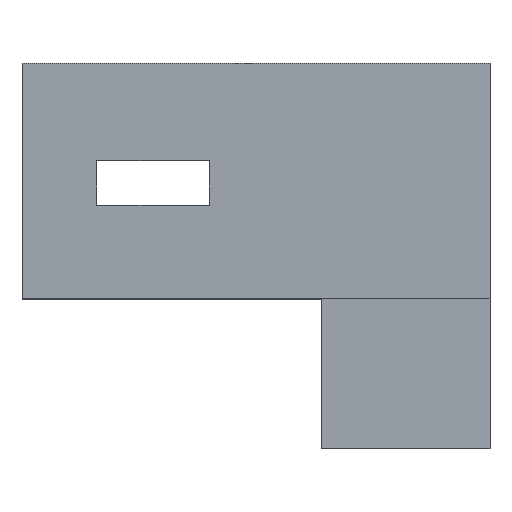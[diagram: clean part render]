
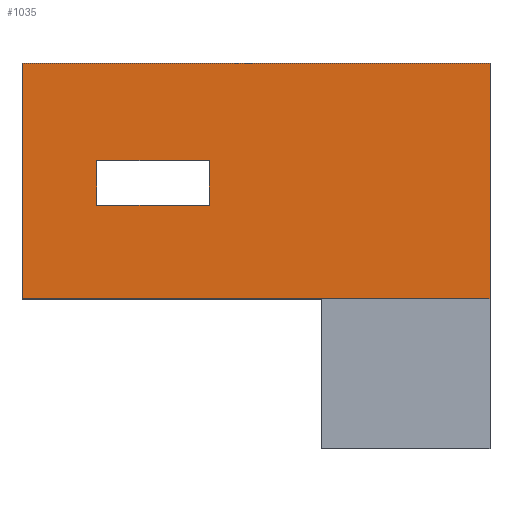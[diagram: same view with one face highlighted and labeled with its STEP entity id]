
A CAD part, top view. The second image highlights one B-rep face of the part: STEP entity #1035.
In plain terms, the highlighted planar face has unit normal (0, 0, 1).
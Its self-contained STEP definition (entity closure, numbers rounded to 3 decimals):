
#85 = VERTEX_POINT('',#86);
#86 = CARTESIAN_POINT('',(25.,18.5,-7.9));
#100 = PLANE('',#101);
#101 = AXIS2_PLACEMENT_3D('',#102,#103,#104);
#102 = CARTESIAN_POINT('',(17.,18.5,-10.05));
#103 = DIRECTION('',(-0.,1.,0.));
#104 = DIRECTION('',(0.,0.,1.));
#128 = PLANE('',#129);
#129 = AXIS2_PLACEMENT_3D('',#130,#131,#132);
#130 = CARTESIAN_POINT('',(25.,18.5,-10.05));
#131 = DIRECTION('',(-0.,1.,0.));
#132 = DIRECTION('',(0.,0.,1.));
#323 = VERTEX_POINT('',#324);
#324 = CARTESIAN_POINT('',(17.,18.5,-7.9));
#338 = PLANE('',#339);
#339 = AXIS2_PLACEMENT_3D('',#340,#341,#342);
#340 = CARTESIAN_POINT('',(17.,18.5,-10.05));
#341 = DIRECTION('',(1.,0.,-0.));
#342 = DIRECTION('',(0.,0.,1.));
#350 = EDGE_CURVE('',#323,#85,#351,.T.);
#351 = SURFACE_CURVE('',#352,(#356,#363),.PCURVE_S1.);
#352 = LINE('',#353,#354);
#353 = CARTESIAN_POINT('',(17.,18.5,-7.9));
#354 = VECTOR('',#355,1.);
#355 = DIRECTION('',(1.,0.,-0.));
#356 = PCURVE('',#100,#357);
#357 = DEFINITIONAL_REPRESENTATION('',(#358),#362);
#358 = LINE('',#359,#360);
#359 = CARTESIAN_POINT('',(2.15,0.));
#360 = VECTOR('',#361,1.);
#361 = DIRECTION('',(0.,1.));
#362 = ( GEOMETRIC_REPRESENTATION_CONTEXT(2) 
PARAMETRIC_REPRESENTATION_CONTEXT() REPRESENTATION_CONTEXT('2D SPACE',''
  ) );
#363 = PCURVE('',#364,#369);
#364 = PLANE('',#365);
#365 = AXIS2_PLACEMENT_3D('',#366,#367,#368);
#366 = CARTESIAN_POINT('',(17.,18.5,-7.9));
#367 = DIRECTION('',(0.,0.,1.));
#368 = DIRECTION('',(1.,0.,-0.));
#369 = DEFINITIONAL_REPRESENTATION('',(#370),#374);
#370 = LINE('',#371,#372);
#371 = CARTESIAN_POINT('',(0.,0.));
#372 = VECTOR('',#373,1.);
#373 = DIRECTION('',(1.,0.));
#374 = ( GEOMETRIC_REPRESENTATION_CONTEXT(2) 
PARAMETRIC_REPRESENTATION_CONTEXT() REPRESENTATION_CONTEXT('2D SPACE',''
  ) );
#380 = EDGE_CURVE('',#85,#381,#383,.T.);
#381 = VERTEX_POINT('',#382);
#382 = CARTESIAN_POINT('',(29.5,18.5,-7.9));
#383 = SURFACE_CURVE('',#384,(#388,#395),.PCURVE_S1.);
#384 = LINE('',#385,#386);
#385 = CARTESIAN_POINT('',(17.,18.5,-7.9));
#386 = VECTOR('',#387,1.);
#387 = DIRECTION('',(1.,0.,-0.));
#388 = PCURVE('',#128,#389);
#389 = DEFINITIONAL_REPRESENTATION('',(#390),#394);
#390 = LINE('',#391,#392);
#391 = CARTESIAN_POINT('',(2.15,-8.));
#392 = VECTOR('',#393,1.);
#393 = DIRECTION('',(0.,1.));
#394 = ( GEOMETRIC_REPRESENTATION_CONTEXT(2) 
PARAMETRIC_REPRESENTATION_CONTEXT() REPRESENTATION_CONTEXT('2D SPACE',''
  ) );
#395 = PCURVE('',#364,#396);
#396 = DEFINITIONAL_REPRESENTATION('',(#397),#401);
#397 = LINE('',#398,#399);
#398 = CARTESIAN_POINT('',(0.,0.));
#399 = VECTOR('',#400,1.);
#400 = DIRECTION('',(1.,0.));
#401 = ( GEOMETRIC_REPRESENTATION_CONTEXT(2) 
PARAMETRIC_REPRESENTATION_CONTEXT() REPRESENTATION_CONTEXT('2D SPACE',''
  ) );
#494 = PLANE('',#495);
#495 = AXIS2_PLACEMENT_3D('',#496,#497,#498);
#496 = CARTESIAN_POINT('',(29.5,18.5,-10.05));
#497 = DIRECTION('',(1.,0.,-0.));
#498 = DIRECTION('',(0.,0.,1.));
#711 = PLANE('',#712);
#712 = AXIS2_PLACEMENT_3D('',#713,#714,#715);
#713 = CARTESIAN_POINT('',(17.,24.8,-10.05));
#714 = DIRECTION('',(-0.,1.,0.));
#715 = DIRECTION('',(0.,0.,1.));
#846 = PLANE('',#847);
#847 = AXIS2_PLACEMENT_3D('',#848,#849,#850);
#848 = CARTESIAN_POINT('',(19.,21.,-10.2));
#849 = DIRECTION('',(-0.,1.,0.));
#850 = DIRECTION('',(0.,0.,1.));
#874 = PLANE('',#875);
#875 = AXIS2_PLACEMENT_3D('',#876,#877,#878);
#876 = CARTESIAN_POINT('',(19.,21.,-10.2));
#877 = DIRECTION('',(1.,0.,-0.));
#878 = DIRECTION('',(0.,0.,1.));
#902 = PLANE('',#903);
#903 = AXIS2_PLACEMENT_3D('',#904,#905,#906);
#904 = CARTESIAN_POINT('',(19.,22.2,-10.2));
#905 = DIRECTION('',(-0.,1.,0.));
#906 = DIRECTION('',(0.,0.,1.));
#928 = PLANE('',#929);
#929 = AXIS2_PLACEMENT_3D('',#930,#931,#932);
#930 = CARTESIAN_POINT('',(22.,21.,-10.2));
#931 = DIRECTION('',(1.,0.,-0.));
#932 = DIRECTION('',(0.,0.,1.));
#943 = EDGE_CURVE('',#323,#944,#946,.T.);
#944 = VERTEX_POINT('',#945);
#945 = CARTESIAN_POINT('',(17.,24.8,-7.9));
#946 = SURFACE_CURVE('',#947,(#951,#958),.PCURVE_S1.);
#947 = LINE('',#948,#949);
#948 = CARTESIAN_POINT('',(17.,18.5,-7.9));
#949 = VECTOR('',#950,1.);
#950 = DIRECTION('',(-0.,1.,0.));
#951 = PCURVE('',#338,#952);
#952 = DEFINITIONAL_REPRESENTATION('',(#953),#957);
#953 = LINE('',#954,#955);
#954 = CARTESIAN_POINT('',(2.15,0.));
#955 = VECTOR('',#956,1.);
#956 = DIRECTION('',(0.,-1.));
#957 = ( GEOMETRIC_REPRESENTATION_CONTEXT(2) 
PARAMETRIC_REPRESENTATION_CONTEXT() REPRESENTATION_CONTEXT('2D SPACE',''
  ) );
#958 = PCURVE('',#364,#959);
#959 = DEFINITIONAL_REPRESENTATION('',(#960),#964);
#960 = LINE('',#961,#962);
#961 = CARTESIAN_POINT('',(0.,0.));
#962 = VECTOR('',#963,1.);
#963 = DIRECTION('',(0.,1.));
#964 = ( GEOMETRIC_REPRESENTATION_CONTEXT(2) 
PARAMETRIC_REPRESENTATION_CONTEXT() REPRESENTATION_CONTEXT('2D SPACE',''
  ) );
#1035 = ADVANCED_FACE('',(#1036,#1085),#364,.T.);
#1036 = FACE_BOUND('',#1037,.T.);
#1037 = EDGE_LOOP('',(#1038,#1039,#1040,#1041,#1064));
#1038 = ORIENTED_EDGE('',*,*,#943,.F.);
#1039 = ORIENTED_EDGE('',*,*,#350,.T.);
#1040 = ORIENTED_EDGE('',*,*,#380,.T.);
#1041 = ORIENTED_EDGE('',*,*,#1042,.T.);
#1042 = EDGE_CURVE('',#381,#1043,#1045,.T.);
#1043 = VERTEX_POINT('',#1044);
#1044 = CARTESIAN_POINT('',(29.5,24.8,-7.9));
#1045 = SURFACE_CURVE('',#1046,(#1050,#1057),.PCURVE_S1.);
#1046 = LINE('',#1047,#1048);
#1047 = CARTESIAN_POINT('',(29.5,18.5,-7.9));
#1048 = VECTOR('',#1049,1.);
#1049 = DIRECTION('',(-0.,1.,0.));
#1050 = PCURVE('',#364,#1051);
#1051 = DEFINITIONAL_REPRESENTATION('',(#1052),#1056);
#1052 = LINE('',#1053,#1054);
#1053 = CARTESIAN_POINT('',(12.5,0.));
#1054 = VECTOR('',#1055,1.);
#1055 = DIRECTION('',(0.,1.));
#1056 = ( GEOMETRIC_REPRESENTATION_CONTEXT(2) 
PARAMETRIC_REPRESENTATION_CONTEXT() REPRESENTATION_CONTEXT('2D SPACE',''
  ) );
#1057 = PCURVE('',#494,#1058);
#1058 = DEFINITIONAL_REPRESENTATION('',(#1059),#1063);
#1059 = LINE('',#1060,#1061);
#1060 = CARTESIAN_POINT('',(2.15,0.));
#1061 = VECTOR('',#1062,1.);
#1062 = DIRECTION('',(0.,-1.));
#1063 = ( GEOMETRIC_REPRESENTATION_CONTEXT(2) 
PARAMETRIC_REPRESENTATION_CONTEXT() REPRESENTATION_CONTEXT('2D SPACE',''
  ) );
#1064 = ORIENTED_EDGE('',*,*,#1065,.F.);
#1065 = EDGE_CURVE('',#944,#1043,#1066,.T.);
#1066 = SURFACE_CURVE('',#1067,(#1071,#1078),.PCURVE_S1.);
#1067 = LINE('',#1068,#1069);
#1068 = CARTESIAN_POINT('',(17.,24.8,-7.9));
#1069 = VECTOR('',#1070,1.);
#1070 = DIRECTION('',(1.,0.,-0.));
#1071 = PCURVE('',#364,#1072);
#1072 = DEFINITIONAL_REPRESENTATION('',(#1073),#1077);
#1073 = LINE('',#1074,#1075);
#1074 = CARTESIAN_POINT('',(0.,6.3));
#1075 = VECTOR('',#1076,1.);
#1076 = DIRECTION('',(1.,0.));
#1077 = ( GEOMETRIC_REPRESENTATION_CONTEXT(2) 
PARAMETRIC_REPRESENTATION_CONTEXT() REPRESENTATION_CONTEXT('2D SPACE',''
  ) );
#1078 = PCURVE('',#711,#1079);
#1079 = DEFINITIONAL_REPRESENTATION('',(#1080),#1084);
#1080 = LINE('',#1081,#1082);
#1081 = CARTESIAN_POINT('',(2.15,0.));
#1082 = VECTOR('',#1083,1.);
#1083 = DIRECTION('',(0.,1.));
#1084 = ( GEOMETRIC_REPRESENTATION_CONTEXT(2) 
PARAMETRIC_REPRESENTATION_CONTEXT() REPRESENTATION_CONTEXT('2D SPACE',''
  ) );
#1085 = FACE_BOUND('',#1086,.T.);
#1086 = EDGE_LOOP('',(#1087,#1112,#1135,#1158));
#1087 = ORIENTED_EDGE('',*,*,#1088,.T.);
#1088 = EDGE_CURVE('',#1089,#1091,#1093,.T.);
#1089 = VERTEX_POINT('',#1090);
#1090 = CARTESIAN_POINT('',(22.,21.,-7.9));
#1091 = VERTEX_POINT('',#1092);
#1092 = CARTESIAN_POINT('',(19.,21.,-7.9));
#1093 = SURFACE_CURVE('',#1094,(#1098,#1105),.PCURVE_S1.);
#1094 = LINE('',#1095,#1096);
#1095 = CARTESIAN_POINT('',(18.,21.,-7.9));
#1096 = VECTOR('',#1097,1.);
#1097 = DIRECTION('',(-1.,-0.,0.));
#1098 = PCURVE('',#364,#1099);
#1099 = DEFINITIONAL_REPRESENTATION('',(#1100),#1104);
#1100 = LINE('',#1101,#1102);
#1101 = CARTESIAN_POINT('',(1.,2.5));
#1102 = VECTOR('',#1103,1.);
#1103 = DIRECTION('',(-1.,0.));
#1104 = ( GEOMETRIC_REPRESENTATION_CONTEXT(2) 
PARAMETRIC_REPRESENTATION_CONTEXT() REPRESENTATION_CONTEXT('2D SPACE',''
  ) );
#1105 = PCURVE('',#846,#1106);
#1106 = DEFINITIONAL_REPRESENTATION('',(#1107),#1111);
#1107 = LINE('',#1108,#1109);
#1108 = CARTESIAN_POINT('',(2.3,-1.));
#1109 = VECTOR('',#1110,1.);
#1110 = DIRECTION('',(0.,-1.));
#1111 = ( GEOMETRIC_REPRESENTATION_CONTEXT(2) 
PARAMETRIC_REPRESENTATION_CONTEXT() REPRESENTATION_CONTEXT('2D SPACE',''
  ) );
#1112 = ORIENTED_EDGE('',*,*,#1113,.T.);
#1113 = EDGE_CURVE('',#1091,#1114,#1116,.T.);
#1114 = VERTEX_POINT('',#1115);
#1115 = CARTESIAN_POINT('',(19.,22.2,-7.9));
#1116 = SURFACE_CURVE('',#1117,(#1121,#1128),.PCURVE_S1.);
#1117 = LINE('',#1118,#1119);
#1118 = CARTESIAN_POINT('',(19.,19.75,-7.9));
#1119 = VECTOR('',#1120,1.);
#1120 = DIRECTION('',(-0.,1.,0.));
#1121 = PCURVE('',#364,#1122);
#1122 = DEFINITIONAL_REPRESENTATION('',(#1123),#1127);
#1123 = LINE('',#1124,#1125);
#1124 = CARTESIAN_POINT('',(2.,1.25));
#1125 = VECTOR('',#1126,1.);
#1126 = DIRECTION('',(0.,1.));
#1127 = ( GEOMETRIC_REPRESENTATION_CONTEXT(2) 
PARAMETRIC_REPRESENTATION_CONTEXT() REPRESENTATION_CONTEXT('2D SPACE',''
  ) );
#1128 = PCURVE('',#874,#1129);
#1129 = DEFINITIONAL_REPRESENTATION('',(#1130),#1134);
#1130 = LINE('',#1131,#1132);
#1131 = CARTESIAN_POINT('',(2.3,1.25));
#1132 = VECTOR('',#1133,1.);
#1133 = DIRECTION('',(0.,-1.));
#1134 = ( GEOMETRIC_REPRESENTATION_CONTEXT(2) 
PARAMETRIC_REPRESENTATION_CONTEXT() REPRESENTATION_CONTEXT('2D SPACE',''
  ) );
#1135 = ORIENTED_EDGE('',*,*,#1136,.F.);
#1136 = EDGE_CURVE('',#1137,#1114,#1139,.T.);
#1137 = VERTEX_POINT('',#1138);
#1138 = CARTESIAN_POINT('',(22.,22.2,-7.9));
#1139 = SURFACE_CURVE('',#1140,(#1144,#1151),.PCURVE_S1.);
#1140 = LINE('',#1141,#1142);
#1141 = CARTESIAN_POINT('',(18.,22.2,-7.9));
#1142 = VECTOR('',#1143,1.);
#1143 = DIRECTION('',(-1.,-0.,0.));
#1144 = PCURVE('',#364,#1145);
#1145 = DEFINITIONAL_REPRESENTATION('',(#1146),#1150);
#1146 = LINE('',#1147,#1148);
#1147 = CARTESIAN_POINT('',(1.,3.7));
#1148 = VECTOR('',#1149,1.);
#1149 = DIRECTION('',(-1.,0.));
#1150 = ( GEOMETRIC_REPRESENTATION_CONTEXT(2) 
PARAMETRIC_REPRESENTATION_CONTEXT() REPRESENTATION_CONTEXT('2D SPACE',''
  ) );
#1151 = PCURVE('',#902,#1152);
#1152 = DEFINITIONAL_REPRESENTATION('',(#1153),#1157);
#1153 = LINE('',#1154,#1155);
#1154 = CARTESIAN_POINT('',(2.3,-1.));
#1155 = VECTOR('',#1156,1.);
#1156 = DIRECTION('',(0.,-1.));
#1157 = ( GEOMETRIC_REPRESENTATION_CONTEXT(2) 
PARAMETRIC_REPRESENTATION_CONTEXT() REPRESENTATION_CONTEXT('2D SPACE',''
  ) );
#1158 = ORIENTED_EDGE('',*,*,#1159,.F.);
#1159 = EDGE_CURVE('',#1089,#1137,#1160,.T.);
#1160 = SURFACE_CURVE('',#1161,(#1165,#1172),.PCURVE_S1.);
#1161 = LINE('',#1162,#1163);
#1162 = CARTESIAN_POINT('',(22.,19.75,-7.9));
#1163 = VECTOR('',#1164,1.);
#1164 = DIRECTION('',(-0.,1.,0.));
#1165 = PCURVE('',#364,#1166);
#1166 = DEFINITIONAL_REPRESENTATION('',(#1167),#1171);
#1167 = LINE('',#1168,#1169);
#1168 = CARTESIAN_POINT('',(5.,1.25));
#1169 = VECTOR('',#1170,1.);
#1170 = DIRECTION('',(0.,1.));
#1171 = ( GEOMETRIC_REPRESENTATION_CONTEXT(2) 
PARAMETRIC_REPRESENTATION_CONTEXT() REPRESENTATION_CONTEXT('2D SPACE',''
  ) );
#1172 = PCURVE('',#928,#1173);
#1173 = DEFINITIONAL_REPRESENTATION('',(#1174),#1178);
#1174 = LINE('',#1175,#1176);
#1175 = CARTESIAN_POINT('',(2.3,1.25));
#1176 = VECTOR('',#1177,1.);
#1177 = DIRECTION('',(0.,-1.));
#1178 = ( GEOMETRIC_REPRESENTATION_CONTEXT(2) 
PARAMETRIC_REPRESENTATION_CONTEXT() REPRESENTATION_CONTEXT('2D SPACE',''
  ) );
